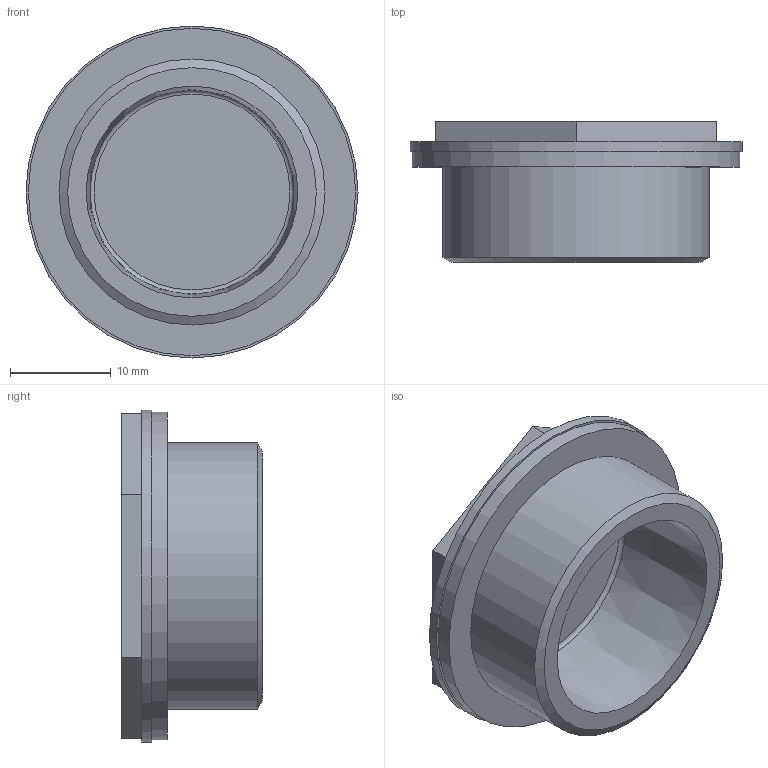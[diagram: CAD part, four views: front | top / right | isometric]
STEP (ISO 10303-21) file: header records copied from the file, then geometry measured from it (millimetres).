
FILE_DESCRIPTION( ( 'STEP AP203' ), '1' );
FILE_NAME( 'C:/Temp/Ganter_Step_05_03_2020/data/3_5/tlt/Oil Level Sight Glass TLT-G3_4.stp', '2020-03-12T13:43:33', ( 'License CC BY-ND 4.0' ), ( 'CADENAS' ), ' ', 'PARTsolutions', ' ' );
FILE_SCHEMA( ( 'CONFIG_CONTROL_DESIGN' ) );
Length unit declared in the file: millimetre
Products named in the file (1): _Oil Level Sight Glass TLT-G3/4
Bounding box: 33 x 14 x 33 mm (x, y, z)
Volume: 4187.1 mm3; surface area: 3677.5 mm2
Topology: 1 solids, 1 shells, 22 faces, 41 edges, 27 vertices
Faces by surface type: plane 14, cylinder 4, cone 3, torus 1
Full cylindrical faces by diameter (mm): 3.966 x1, 26.441 x1, 32.542 x1, 33 x1
Entity records: 546 total; most frequent: DIRECTION 92, CARTESIAN_POINT 81, ORIENTED_EDGE 64, AXIS2_PLACEMENT_3D 37, EDGE_LOOP 36, EDGE_CURVE 32, FACE_OUTER_BOUND 27, VERTEX_POINT 26
